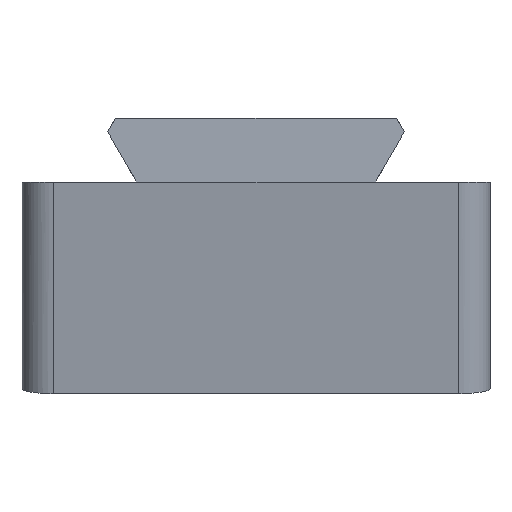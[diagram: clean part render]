
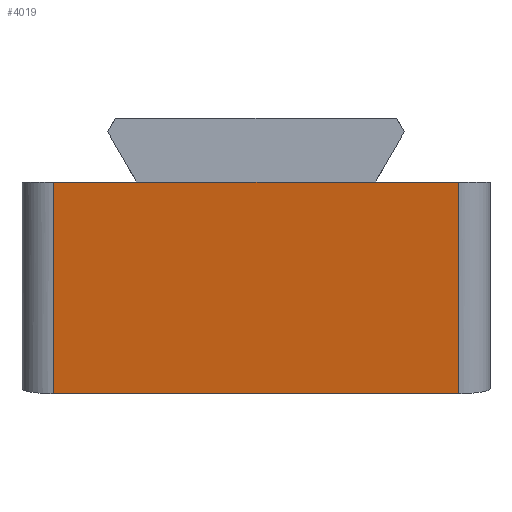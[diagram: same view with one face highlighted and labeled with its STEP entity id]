
A CAD part, left-side view. The second image highlights one B-rep face of the part: STEP entity #4019.
In plain terms, the highlighted planar face has unit normal (-0.988, 0, -0.156).
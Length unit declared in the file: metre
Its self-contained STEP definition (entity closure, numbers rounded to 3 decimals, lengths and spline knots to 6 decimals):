
#626=ORIENTED_EDGE('',*,*,#1662,.T.);
#627=ORIENTED_EDGE('',*,*,#1811,.T.);
#628=ORIENTED_EDGE('',*,*,#1592,.F.);
#629=ORIENTED_EDGE('',*,*,#1812,.T.);
#630=ORIENTED_EDGE('',*,*,#1674,.T.);
#631=ORIENTED_EDGE('',*,*,#1806,.T.);
#1592=EDGE_CURVE('',#2203,#2204,#2610,.T.);
#1662=EDGE_CURVE('',#2264,#2271,#2655,.T.);
#1674=EDGE_CURVE('',#2280,#2256,#2661,.T.);
#1806=EDGE_CURVE('',#2256,#2264,#2721,.T.);
#1811=EDGE_CURVE('',#2271,#2204,#2722,.T.);
#1812=EDGE_CURVE('',#2203,#2280,#2723,.F.);
#2203=VERTEX_POINT('',#5394);
#2204=VERTEX_POINT('',#5396);
#2256=VERTEX_POINT('',#5507);
#2264=VERTEX_POINT('',#5525);
#2271=VERTEX_POINT('',#5542);
#2280=VERTEX_POINT('',#5564);
#2610=LINE('',#5395,#2985);
#2655=LINE('',#5543,#3030);
#2661=LINE('',#5563,#3036);
#2721=LINE('',#5926,#3096);
#2722=LINE('',#5938,#3097);
#2723=LINE('',#5939,#3098);
#2985=VECTOR('',#4508,1.);
#3030=VECTOR('',#4623,1.);
#3036=VECTOR('',#4641,1.);
#3096=VECTOR('',#4757,1.);
#3097=VECTOR('',#4776,1.);
#3098=VECTOR('',#4777,1.);
#3399=EDGE_LOOP('',(#626,#627,#628,#629,#630,#631));
#3662=FACE_BOUND('',#3399,.T.);
#3900=PLANE('',#4319);
#4019=ADVANCED_FACE('',(#3662),#3900,.F.);
#4319=AXIS2_PLACEMENT_3D('',#5937,#4774,#4775);
#4508=DIRECTION('',(0.,1.,0.));
#4623=DIRECTION('',(0.,1.,0.));
#4641=DIRECTION('',(0.,1.,0.));
#4757=DIRECTION('',(0.,1.,0.));
#4774=DIRECTION('',(0.988,0.,0.156));
#4775=DIRECTION('',(0.156,0.,-0.988));
#4776=DIRECTION('',(0.156,0.,-0.988));
#4777=DIRECTION('',(0.156,0.,-0.988));
#5394=CARTESIAN_POINT('',(0.002145,-0.013,-0.013542));
#5395=CARTESIAN_POINT('',(0.002145,-0.015,-0.013542));
#5396=CARTESIAN_POINT('',(0.002145,0.013,-0.013542));
#5507=CARTESIAN_POINT('',(0.,-0.007695,0.));
#5525=CARTESIAN_POINT('',(0.,0.007695,0.));
#5542=CARTESIAN_POINT('',(0.,0.013,0.));
#5543=CARTESIAN_POINT('',(0.,-0.015,0.));
#5563=CARTESIAN_POINT('',(0.,-0.015,0.));
#5564=CARTESIAN_POINT('',(0.,-0.013,0.));
#5926=CARTESIAN_POINT('',(0.,0.,0.));
#5937=CARTESIAN_POINT('',(0.001072,-0.015,-0.006771));
#5938=CARTESIAN_POINT('',(0.001072,0.013,-0.006771));
#5939=CARTESIAN_POINT('',(0.,-0.013,0.));
